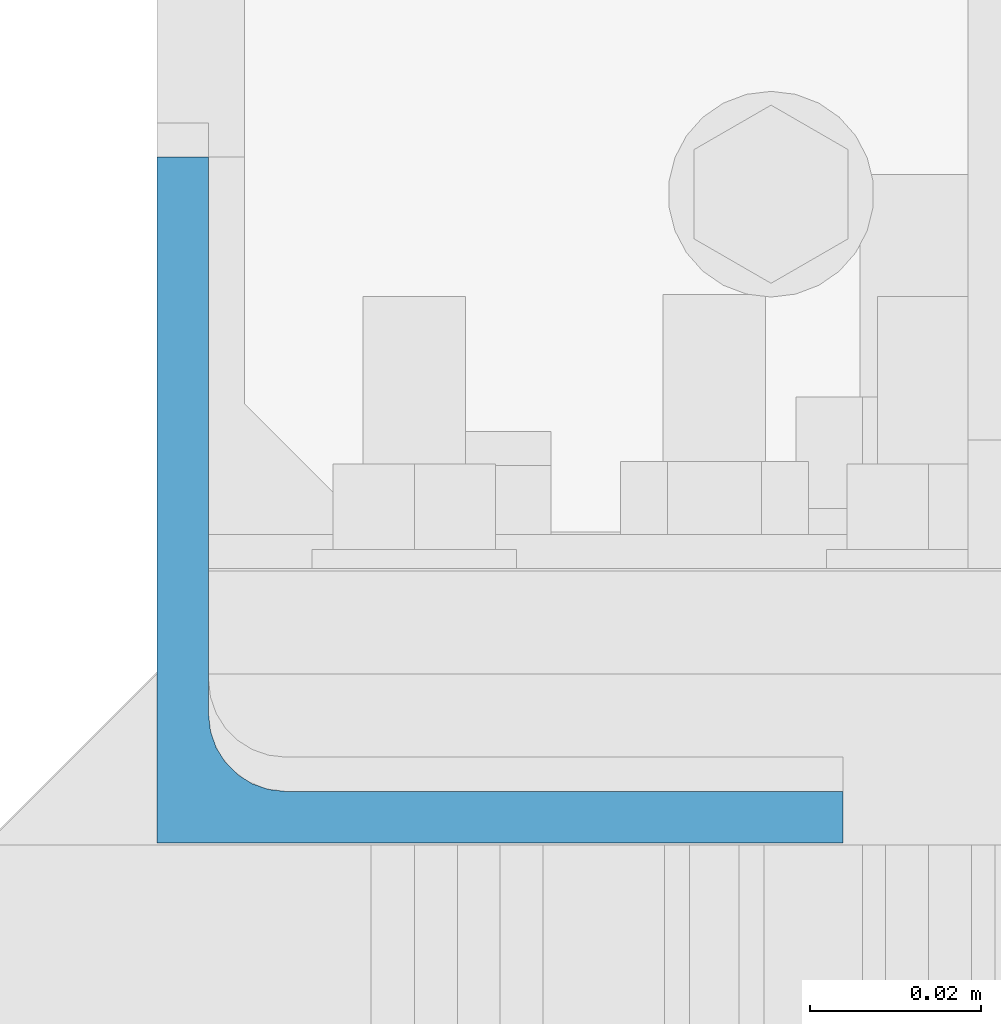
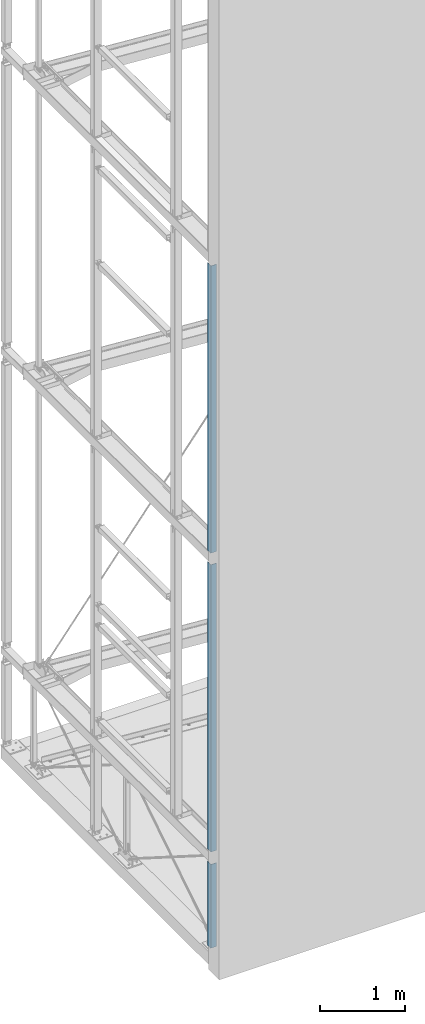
# One storey, part 8 of 271: 3 beams, 3 elements without a shape of their own.
"""IFC2X3 building model written with IfcOpenShell, lengths in millimetres."""

from ifc_helpers import new_model, si_unit, frame, origin_with_axes, origin_2d_with_axis, place, context, subcontext, project, spatial, l_section, extrude, material, type_object, element, aggregate, save


model = new_model("IFC2X3")

# Units and contexts
model_context = context("Model", 3, precision=1e-05, world=origin_with_axes())
body_context = subcontext(model_context, "Body", "Model", "MODEL_VIEW")
ifc_project = project(units=[si_unit("LENGTHUNIT", "METRE", prefix="MILLI"), si_unit("AREAUNIT", "SQUARE_METRE"), si_unit("VOLUMEUNIT", "CUBIC_METRE"), si_unit("MASSUNIT", "GRAM", prefix="KILO"), si_unit("TIMEUNIT", "SECOND"), si_unit("PLANEANGLEUNIT", "RADIAN"), si_unit("SOLIDANGLEUNIT", "STERADIAN"), si_unit("THERMODYNAMICTEMPERATUREUNIT", "DEGREE_CELSIUS"), si_unit("LUMINOUSINTENSITYUNIT", "LUMEN")], contexts=[model_context])

# Site, building, storey
site_placement = place(None, origin_with_axes())
site = spatial("IfcSite", under=ifc_project, at=site_placement, Name="Undefined", CompositionType="ELEMENT")
building_placement = place(site_placement, origin_with_axes())
building = spatial("IfcBuilding", under=site, at=building_placement, Name="Undefined", CompositionType="ELEMENT")
storey_placement = place(building_placement, origin_with_axes())
storey = spatial("IfcBuildingStorey", under=building, at=storey_placement, Name="Undefined", CompositionType="ELEMENT", Elevation=0.0)

# Assembly, beam
assembly_1_placement = place(storey_placement, origin_with_axes())
assembly_1 = element("IfcElementAssembly", 1, at=assembly_1_placement, inside=storey, AssemblyPlace="NOTDEFINED", PredefinedType="RIGID_FRAME")
ifc_material = material(Name="STEEL/S355JR")
beam_type = type_object("IfcBeamType", Name="L80*80*6", PredefinedType="NOTDEFINED")
beam_1_placement = place(assembly_1_placement, frame((28.3756870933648, 39.3249842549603, 5764.34999990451), z_axis=(1.0, 0.0, 0.0), x_axis=(0.0, 0.0, 1.0)))
beam_1 = element("IfcBeam", 2, at=beam_1_placement, type_object=beam_type, material=ifc_material, Name="KĄTOWNIK", ObjectType="L80*80*6", context=body_context, shape_type="SweptSolid", body=[
    extrude(l_section(Depth=80.0, Width=80.0, Thickness=6.0, FilletRadius=9.0, at=origin_2d_with_axis()), frame((4140.0, 0.0, 0.0), z_axis=(-1.0, 0.0, 1.38777878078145e-17), x_axis=(0.0, -1.0, 0.0)), (0.0, 0.0, 1.0), 4140.0),
])
aggregate(assembly_1, [beam_1])

assembly_2_placement = place(storey_placement, origin_with_axes())
assembly_2 = element("IfcElementAssembly", 3, at=assembly_2_placement, inside=storey, AssemblyPlace="NOTDEFINED", PredefinedType="RIGID_FRAME")
beam_2_placement = place(assembly_2_placement, frame((28.3756870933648, 39.3249842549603, 1454.34999990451), z_axis=(1.0, 0.0, 0.0), x_axis=(0.0, 0.0, 1.0)))
beam_2 = element("IfcBeam", 4, at=beam_2_placement, type_object=beam_type, material=ifc_material, Name="KĄTOWNIK", ObjectType="L80*80*6", context=body_context, shape_type="SweptSolid", body=[
    extrude(l_section(Depth=80.0, Width=80.0, Thickness=6.0, FilletRadius=9.0, at=origin_2d_with_axis()), frame((4140.0, 0.0, 0.0), z_axis=(-1.0, 0.0, 1.38777878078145e-17), x_axis=(0.0, -1.0, 0.0)), (0.0, 0.0, 1.0), 4140.0),
])
aggregate(assembly_2, [beam_2])

assembly_3_placement = place(storey_placement, origin_with_axes())
assembly_3 = element("IfcElementAssembly", 5, at=assembly_3_placement, inside=storey, AssemblyPlace="NOTDEFINED", PredefinedType="RIGID_FRAME")
beam_3_placement = place(assembly_3_placement, frame((28.3756870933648, 39.3249842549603, 69.3499999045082), z_axis=(1.0, 0.0, 0.0), x_axis=(0.0, 0.0, 1.0)))
beam_3 = element("IfcBeam", 6, at=beam_3_placement, type_object=beam_type, material=ifc_material, Name="KĄTOWNIK", ObjectType="L80*80*6", context=body_context, shape_type="SweptSolid", body=[
    extrude(l_section(Depth=80.0, Width=80.0, Thickness=6.0, FilletRadius=9.0, at=origin_2d_with_axis()), frame((1205.0, 0.0, 0.0), z_axis=(-1.0, 0.0, 1.38777878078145e-17), x_axis=(0.0, -1.0, 0.0)), (0.0, 0.0, 1.0), 1205.0),
])
aggregate(assembly_3, [beam_3])

save(model, "model.ifc")
